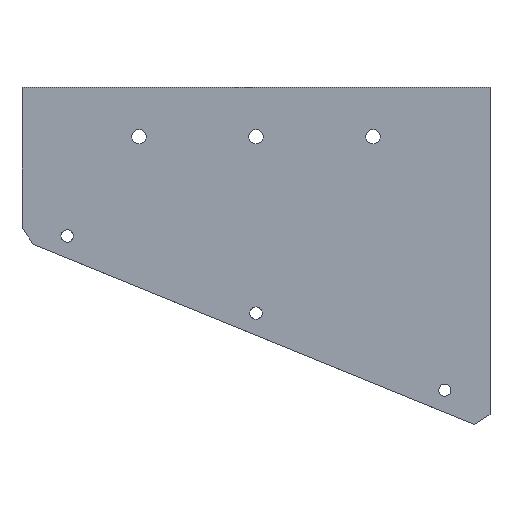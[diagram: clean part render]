
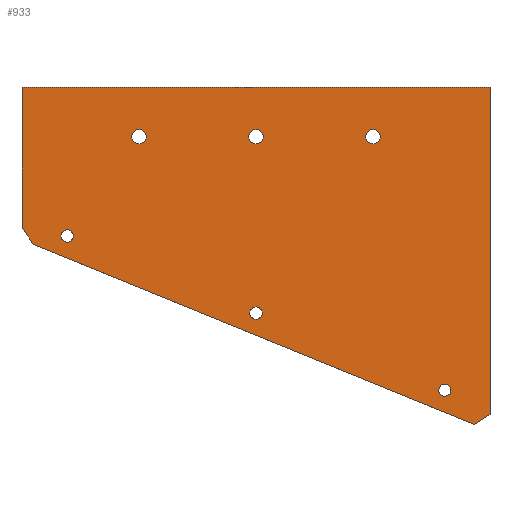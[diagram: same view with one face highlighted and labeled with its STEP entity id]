
A CAD part, top view. The second image highlights one B-rep face of the part: STEP entity #933.
In plain terms, the highlighted planar face has unit normal (0, 0, 1).
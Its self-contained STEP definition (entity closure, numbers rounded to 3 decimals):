
#21=FACE_BOUND('',#106,.T.);
#22=FACE_BOUND('',#107,.T.);
#23=FACE_BOUND('',#108,.T.);
#24=FACE_BOUND('',#109,.T.);
#25=FACE_BOUND('',#110,.T.);
#26=FACE_BOUND('',#111,.T.);
#40=CIRCLE('',#986,1.75);
#41=CIRCLE('',#987,1.75);
#42=CIRCLE('',#988,1.75);
#43=CIRCLE('',#989,1.5);
#44=CIRCLE('',#990,1.5);
#45=CIRCLE('',#991,1.5);
#55=FACE_OUTER_BOUND('',#105,.T.);
#105=EDGE_LOOP('',(#644,#645,#646,#647,#648,#649));
#106=EDGE_LOOP('',(#650));
#107=EDGE_LOOP('',(#651));
#108=EDGE_LOOP('',(#652));
#109=EDGE_LOOP('',(#653));
#110=EDGE_LOOP('',(#654));
#111=EDGE_LOOP('',(#655));
#173=LINE('',#1296,#291);
#177=LINE('',#1305,#295);
#179=LINE('',#1308,#297);
#187=LINE('',#1324,#305);
#188=LINE('',#1326,#306);
#189=LINE('',#1327,#307);
#291=VECTOR('',#1050,10.);
#295=VECTOR('',#1056,10.);
#297=VECTOR('',#1060,10.);
#305=VECTOR('',#1070,10.);
#306=VECTOR('',#1071,10.);
#307=VECTOR('',#1072,10.);
#409=VERTEX_POINT('',#1293);
#410=VERTEX_POINT('',#1295);
#413=VERTEX_POINT('',#1302);
#414=VERTEX_POINT('',#1304);
#421=VERTEX_POINT('',#1323);
#422=VERTEX_POINT('',#1325);
#423=VERTEX_POINT('',#1328);
#424=VERTEX_POINT('',#1330);
#425=VERTEX_POINT('',#1332);
#426=VERTEX_POINT('',#1334);
#427=VERTEX_POINT('',#1336);
#428=VERTEX_POINT('',#1338);
#498=EDGE_CURVE('',#410,#409,#173,.T.);
#502=EDGE_CURVE('',#413,#414,#177,.T.);
#504=EDGE_CURVE('',#409,#414,#179,.T.);
#512=EDGE_CURVE('',#413,#421,#187,.T.);
#513=EDGE_CURVE('',#422,#421,#188,.T.);
#514=EDGE_CURVE('',#422,#410,#189,.T.);
#515=EDGE_CURVE('',#423,#423,#40,.T.);
#516=EDGE_CURVE('',#424,#424,#41,.T.);
#517=EDGE_CURVE('',#425,#425,#42,.T.);
#518=EDGE_CURVE('',#426,#426,#43,.T.);
#519=EDGE_CURVE('',#427,#427,#44,.T.);
#520=EDGE_CURVE('',#428,#428,#45,.T.);
#644=ORIENTED_EDGE('',*,*,#502,.F.);
#645=ORIENTED_EDGE('',*,*,#512,.T.);
#646=ORIENTED_EDGE('',*,*,#513,.F.);
#647=ORIENTED_EDGE('',*,*,#514,.T.);
#648=ORIENTED_EDGE('',*,*,#498,.T.);
#649=ORIENTED_EDGE('',*,*,#504,.T.);
#650=ORIENTED_EDGE('',*,*,#515,.T.);
#651=ORIENTED_EDGE('',*,*,#516,.T.);
#652=ORIENTED_EDGE('',*,*,#517,.T.);
#653=ORIENTED_EDGE('',*,*,#518,.T.);
#654=ORIENTED_EDGE('',*,*,#519,.T.);
#655=ORIENTED_EDGE('',*,*,#520,.T.);
#889=PLANE('',#985);
#933=ADVANCED_FACE('',(#55,#21,#22,#23,#24,#25,#26),#889,.T.);
#985=AXIS2_PLACEMENT_3D('',#1322,#1068,#1069);
#986=AXIS2_PLACEMENT_3D('',#1329,#1073,#1074);
#987=AXIS2_PLACEMENT_3D('',#1331,#1075,#1076);
#988=AXIS2_PLACEMENT_3D('',#1333,#1077,#1078);
#989=AXIS2_PLACEMENT_3D('',#1335,#1079,#1080);
#990=AXIS2_PLACEMENT_3D('',#1337,#1081,#1082);
#991=AXIS2_PLACEMENT_3D('',#1339,#1083,#1084);
#1050=DIRECTION('',(-1.,0.,0.));
#1056=DIRECTION('',(-0.558,0.83,0.));
#1060=DIRECTION('',(0.,-1.,0.));
#1068=DIRECTION('center_axis',(0.,0.,1.));
#1069=DIRECTION('ref_axis',(1.,0.,0.));
#1070=DIRECTION('',(0.926,-0.378,0.));
#1071=DIRECTION('',(-0.83,-0.558,0.));
#1072=DIRECTION('',(0.,1.,0.));
#1073=DIRECTION('center_axis',(0.,0.,-1.));
#1074=DIRECTION('ref_axis',(-1.,0.,0.));
#1075=DIRECTION('center_axis',(0.,0.,-1.));
#1076=DIRECTION('ref_axis',(-1.,0.,0.));
#1077=DIRECTION('center_axis',(0.,0.,-1.));
#1078=DIRECTION('ref_axis',(-1.,0.,0.));
#1079=DIRECTION('center_axis',(0.,0.,-1.));
#1080=DIRECTION('ref_axis',(-1.,0.,0.));
#1081=DIRECTION('center_axis',(0.,0.,-1.));
#1082=DIRECTION('ref_axis',(-1.,0.,0.));
#1083=DIRECTION('center_axis',(0.,0.,-1.));
#1084=DIRECTION('ref_axis',(-1.,0.,0.));
#1293=CARTESIAN_POINT('',(-276.853,41.949,0.));
#1295=CARTESIAN_POINT('',(-162.853,41.949,0.));
#1296=CARTESIAN_POINT('',(-276.853,41.949,0.));
#1302=CARTESIAN_POINT('',(-274.075,3.715,0.));
#1304=CARTESIAN_POINT('',(-276.853,7.849,0.));
#1305=CARTESIAN_POINT('',(-264.827,-10.048,0.));
#1308=CARTESIAN_POINT('',(-276.853,15.659,0.));
#1322=CARTESIAN_POINT('Origin',(-210.708,3.338,0.));
#1323=CARTESIAN_POINT('',(-166.556,-40.171,0.));
#1324=CARTESIAN_POINT('',(-276.853,4.849,0.));
#1325=CARTESIAN_POINT('',(-162.853,-37.683,0.));
#1326=CARTESIAN_POINT('',(-170.769,-43.002,0.));
#1327=CARTESIAN_POINT('',(-162.853,18.849,0.));
#1328=CARTESIAN_POINT('',(-189.603,29.949,0.));
#1329=CARTESIAN_POINT('Origin',(-191.353,29.949,0.));
#1330=CARTESIAN_POINT('',(-218.103,29.949,0.));
#1331=CARTESIAN_POINT('Origin',(-219.853,29.949,0.));
#1332=CARTESIAN_POINT('',(-246.603,29.949,0.));
#1333=CARTESIAN_POINT('Origin',(-248.353,29.949,0.));
#1334=CARTESIAN_POINT('',(-172.353,-31.793,0.));
#1335=CARTESIAN_POINT('Origin',(-173.853,-31.793,0.));
#1336=CARTESIAN_POINT('',(-218.353,-13.017,0.));
#1337=CARTESIAN_POINT('Origin',(-219.853,-13.017,0.));
#1338=CARTESIAN_POINT('',(-264.353,5.759,0.));
#1339=CARTESIAN_POINT('Origin',(-265.853,5.759,0.));
